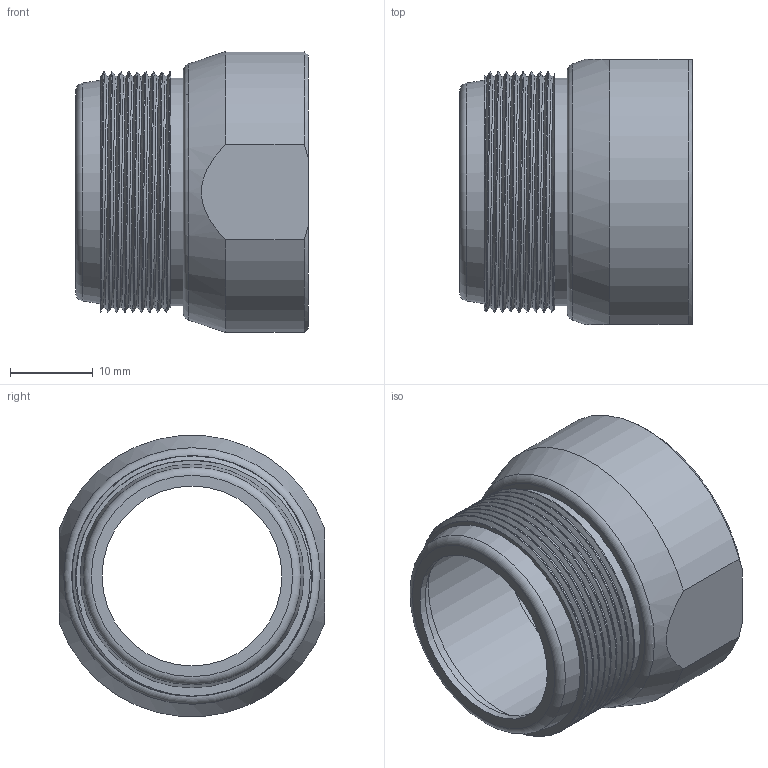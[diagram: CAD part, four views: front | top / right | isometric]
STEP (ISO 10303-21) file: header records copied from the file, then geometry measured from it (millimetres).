
FILE_DESCRIPTION (( 'STEP AP203' ), '1' );
FILE_NAME ('SH.IR2.A-»¤Ì×L-20250519.STEP', '2025-05-21T06:30:00', ( '' ), ( '' ), 'SwSTEP 2.0', 'SolidWorks 2023', '' );
FILE_SCHEMA (( 'CONFIG_CONTROL_DESIGN' ));
Length unit declared in the file: millimetre
Products named in the file (1): SH.IR2.A-护套L-20250519
Bounding box: 28.1 x 32 x 33.89 mm (x, y, z)
Volume: 6855.1 mm3; surface area: 6787.2 mm2
Topology: 1 solids, 1 shells, 34 faces, 71 edges, 47 vertices
Faces by surface type: plane 12, cylinder 10, bspline 6, cone 4, torus 2
Full cylindrical faces by diameter (mm): 21.72 x1, 24.3 x1, 25.1 x1, 26.5 x2, 27.5 x1
Entity records: 4231 total; most frequent: CARTESIAN_POINT 3527, DIRECTION 118, ORIENTED_EDGE 118, EDGE_CURVE 59, AXIS2_PLACEMENT_3D 56, EDGE_LOOP 54, VERTEX_POINT 45, FACE_OUTER_BOUND 42
